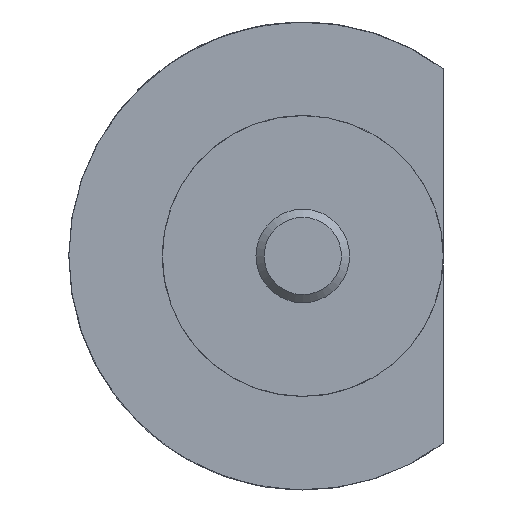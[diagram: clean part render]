
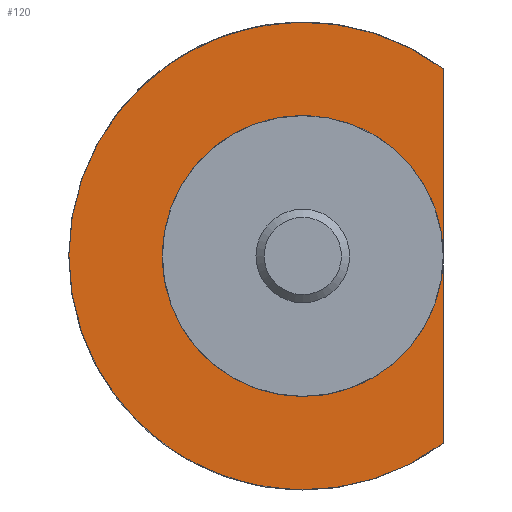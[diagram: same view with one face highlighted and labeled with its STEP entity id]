
A CAD part, front view. The second image highlights one B-rep face of the part: STEP entity #120.
In plain terms, the highlighted planar face has unit normal (0, 1, 0).
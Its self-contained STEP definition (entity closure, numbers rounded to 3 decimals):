
#120 = ADVANCED_FACE( '', ( #223 ), #224, .F. );
#223 = FACE_OUTER_BOUND( '', #326, .T. );
#224 = PLANE( '', #327 );
#326 = EDGE_LOOP( '', ( #652, #653, #654, #655 ) );
#327 = AXIS2_PLACEMENT_3D( '', #656, #657, #658 );
#652 = ORIENTED_EDGE( '', *, *, #694, .T. );
#653 = ORIENTED_EDGE( '', *, *, #711, .F. );
#654 = ORIENTED_EDGE( '', *, *, #709, .F. );
#655 = ORIENTED_EDGE( '', *, *, #712, .F. );
#656 = CARTESIAN_POINT( '', ( 0., 10., 0. ) );
#657 = DIRECTION( '', ( 0., -1., 0. ) );
#658 = DIRECTION( '', ( 0., 0., -1. ) );
#694 = EDGE_CURVE( '', #819, #819, #820, .T. );
#709 = EDGE_CURVE( '', #847, #849, #850, .T. );
#711 = EDGE_CURVE( '', #849, #819, #852, .T. );
#712 = EDGE_CURVE( '', #819, #847, #853, .T. );
#819 = VERTEX_POINT( '', #1016 );
#820 = CIRCLE( '', #1017, 12. );
#847 = VERTEX_POINT( '', #1049 );
#849 = VERTEX_POINT( '', #1052 );
#850 = CIRCLE( '', #1053, 20. );
#852 = LINE( '', #1056, #1057 );
#853 = LINE( '', #1058, #1059 );
#1016 = CARTESIAN_POINT( '', ( 12., 10., 0. ) );
#1017 = AXIS2_PLACEMENT_3D( '', #1233, #1234, #1235 );
#1049 = CARTESIAN_POINT( '', ( 12., 10., 16. ) );
#1052 = CARTESIAN_POINT( '', ( 12., 10., -16. ) );
#1053 = AXIS2_PLACEMENT_3D( '', #1266, #1267, #1268 );
#1056 = CARTESIAN_POINT( '', ( 12., 10., -20. ) );
#1057 = VECTOR( '', #1270, 1000. );
#1058 = CARTESIAN_POINT( '', ( 12., 10., -20. ) );
#1059 = VECTOR( '', #1271, 1000. );
#1233 = CARTESIAN_POINT( '', ( 0., 10., 0. ) );
#1234 = DIRECTION( '', ( 0., -1., 0. ) );
#1235 = DIRECTION( '', ( 0., 0., -1. ) );
#1266 = CARTESIAN_POINT( '', ( 0., 10., 0. ) );
#1267 = DIRECTION( '', ( 0., -1., 0. ) );
#1268 = DIRECTION( '', ( 0., 0., -1. ) );
#1270 = DIRECTION( '', ( 0., 0., 1. ) );
#1271 = DIRECTION( '', ( 0., 0., 1. ) );
